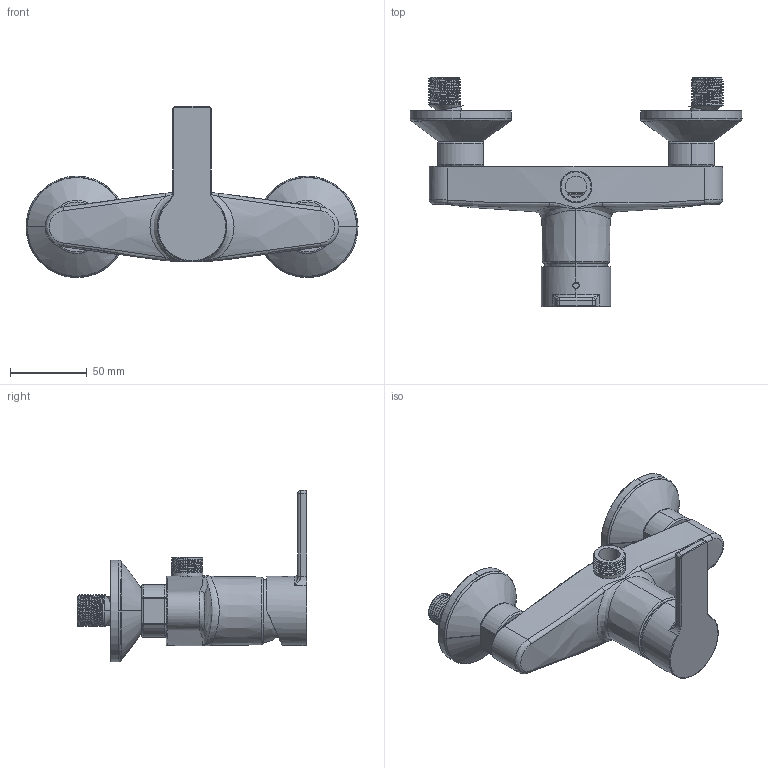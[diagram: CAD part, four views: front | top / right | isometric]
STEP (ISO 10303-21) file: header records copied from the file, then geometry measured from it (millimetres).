
FILE_DESCRIPTION (( 'STEP AP203' ), '1' );
FILE_NAME ('JAG23.STEP', '2019-07-29T08:16:04', ( '' ), ( '' ), 'SwSTEP 2.0', 'SolidWorks 2014', '' );
FILE_SCHEMA (( 'CONFIG_CONTROL_DESIGN' ));
Length unit declared in the file: millimetre
Products named in the file (13): JAG23; 2; N22-B02; N22-B02-1; LM_1; 2-1; MANIKO; N22-B03_1; N22-B03; 130417; LM
Assembly tree (12 placements, depth 3):
  JAG23
    130417
    LM
    LM_1
    N22-B03
    N22-B03_1
    N22-B02
      N22-B02
      N22-B02-1
    2
      2
      2-1
    MANIKO
Bounding box: 216 x 149.5 x 111.45 mm (x, y, z)
Volume: 159364 mm3; surface area: 121534.5 mm2
Topology: 8 solids, 16 shells, 509 faces, 1379 edges, 909 vertices
Faces by surface type: cylinder 201, bspline 176, plane 89, cone 32, torus 9, sphere 2
Entity records: 45336 total; most frequent: CARTESIAN_POINT 33172, ORIENTED_EDGE 2706, DIRECTION 1554, EDGE_CURVE 1369, VERTEX_POINT 909, B_SPLINE_CURVE_WITH_KNOTS 673, AXIS2_PLACEMENT_3D 595, EDGE_LOOP 554
